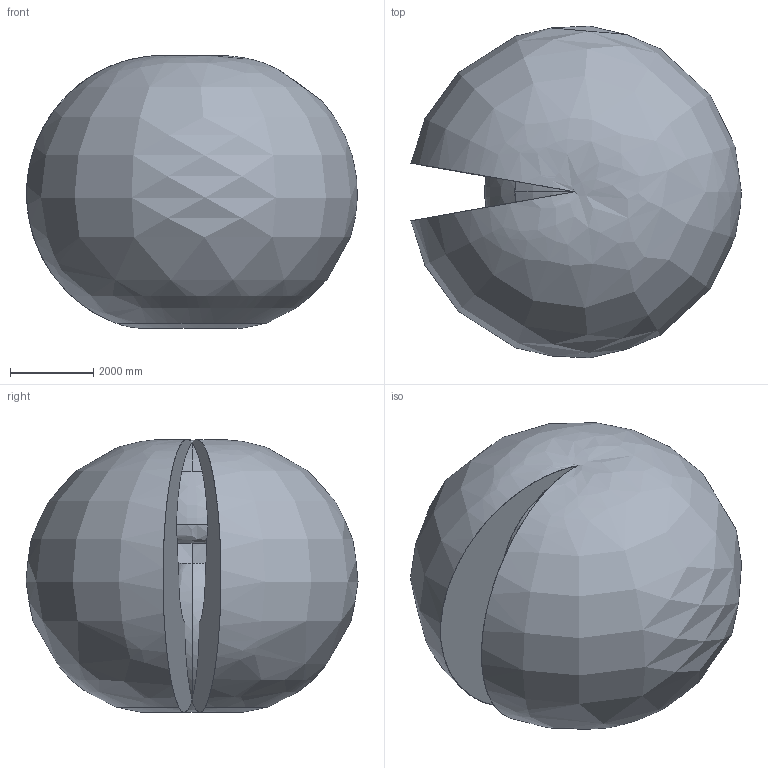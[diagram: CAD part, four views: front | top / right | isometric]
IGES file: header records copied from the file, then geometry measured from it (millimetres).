
Start section: SolidWorks IGES file using analytic representation for surfaces
Global section: file name: N:\DM\Robotics\SEROP_PROJ\Product Development\DevelopmentProjects\Manipulator_Modularity\04. Product Design\06. CAD\Amanda\6730S Simulation models\\IRB6730S-MH3_150kg-400_OC_01_IGES_J\IRB6730S-MH3_150kg-400_OC_00_Working-envelope.igs; native system: SolidWorks 2024; preprocessor: SolidWorks 2024; author: SEJOHLUN; date: 251219.145442; units: millimetre
Bounding box: 7941.88 x 7970.85 x 6550.6 mm (x, y, z)
Surface area: 262136043.7 mm2 (no closed solid volume)
Topology: 0 solids, 0 shells, 22 faces, 580 edges, 569 vertices
Faces by surface type: bspline 22
